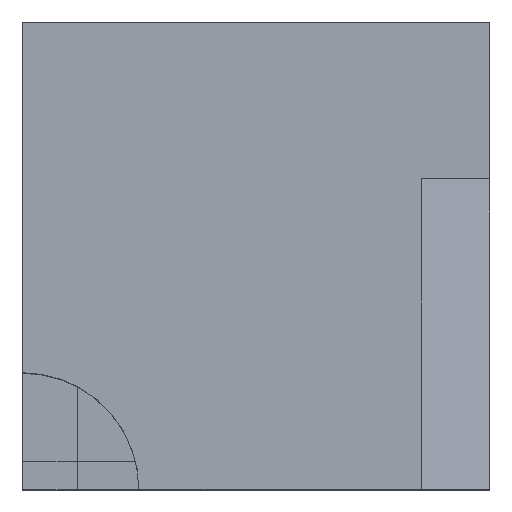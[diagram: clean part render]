
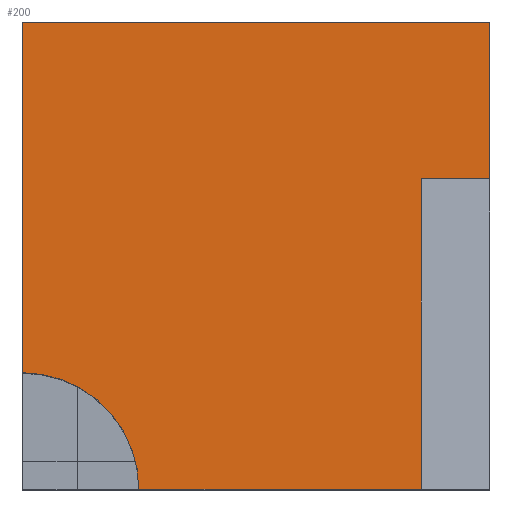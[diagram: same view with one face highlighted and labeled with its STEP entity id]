
A CAD part, top view. The second image highlights one B-rep face of the part: STEP entity #200.
In plain terms, the highlighted planar face has unit normal (0, 0, 1).
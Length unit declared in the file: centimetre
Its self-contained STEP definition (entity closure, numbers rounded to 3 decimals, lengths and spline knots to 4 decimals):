
#19 = VECTOR ( 'NONE', #840, 100. ) ;
#32 = DIRECTION ( 'NONE',  ( -1., 0., 0. ) ) ;
#58 = VECTOR ( 'NONE', #846, 100. ) ;
#97 = LINE ( 'NONE', #541, #509 ) ;
#101 = VERTEX_POINT ( 'NONE', #371 ) ;
#103 = LINE ( 'NONE', #108, #388 ) ;
#108 = CARTESIAN_POINT ( 'NONE',  ( 0., 1000., 1000. ) ) ;
#116 = ORIENTED_EDGE ( 'NONE', *, *, #284, .T. ) ;
#194 = DIRECTION ( 'NONE',  ( 1., 0., 0. ) ) ;
#200 = ADVANCED_FACE ( 'NONE', ( #385 ), #813, .T. ) ;
#207 = LINE ( 'NONE', #501, #19 ) ;
#210 = LINE ( 'NONE', #355, #759 ) ;
#213 = ORIENTED_EDGE ( 'NONE', *, *, #428, .T. ) ;
#240 = VERTEX_POINT ( 'NONE', #886 ) ;
#262 = LINE ( 'NONE', #833, #403 ) ;
#276 = EDGE_CURVE ( 'NONE', #850, #359, #97, .T. ) ;
#284 = EDGE_CURVE ( 'NONE', #359, #101, #103, .T. ) ;
#355 = CARTESIAN_POINT ( 'NONE',  ( 1000., 1000., 1000. ) ) ;
#359 = VERTEX_POINT ( 'NONE', #684 ) ;
#371 = CARTESIAN_POINT ( 'NONE',  ( 0., 249.2737, 1000. ) ) ;
#380 = EDGE_LOOP ( 'NONE', ( #648, #514, #869, #783, #116, #636, #213 ) ) ;
#385 = FACE_OUTER_BOUND ( 'NONE', #380, .T. ) ;
#388 = VECTOR ( 'NONE', #601, 100. ) ;
#403 = VECTOR ( 'NONE', #194, 100. ) ;
#428 = EDGE_CURVE ( 'NONE', #841, #577, #262, .T. ) ;
#448 = EDGE_CURVE ( 'NONE', #240, #850, #210, .T. ) ;
#458 = CARTESIAN_POINT ( 'NONE',  ( 0., 0., 1000. ) ) ;
#480 = AXIS2_PLACEMENT_3D ( 'NONE', #800, #737, #893 ) ;
#489 = EDGE_CURVE ( 'NONE', #603, #577, #637, .T. ) ;
#497 = AXIS2_PLACEMENT_3D ( 'NONE', #458, #532, #819 ) ;
#501 = CARTESIAN_POINT ( 'NONE',  ( 854.1298, 664.202, 1000. ) ) ;
#504 = DIRECTION ( 'NONE',  ( 0., 1., 0. ) ) ;
#509 = VECTOR ( 'NONE', #32, 100. ) ;
#514 = ORIENTED_EDGE ( 'NONE', *, *, #904, .F. ) ;
#519 = CARTESIAN_POINT ( 'NONE',  ( 854.1298, 664.202, 1000. ) ) ;
#528 = CIRCLE ( 'NONE', #480, 249.2737 ) ;
#532 = DIRECTION ( 'NONE',  ( 0., 0., 1. ) ) ;
#541 = CARTESIAN_POINT ( 'NONE',  ( 0., 1000., 1000. ) ) ;
#577 = VERTEX_POINT ( 'NONE', #585 ) ;
#585 = CARTESIAN_POINT ( 'NONE',  ( 854.1298, 0., 1000. ) ) ;
#601 = DIRECTION ( 'NONE',  ( 0., -1., 0. ) ) ;
#603 = VERTEX_POINT ( 'NONE', #519 ) ;
#636 = ORIENTED_EDGE ( 'NONE', *, *, #681, .F. ) ;
#637 = LINE ( 'NONE', #775, #58 ) ;
#648 = ORIENTED_EDGE ( 'NONE', *, *, #489, .F. ) ;
#681 = EDGE_CURVE ( 'NONE', #841, #101, #528, .T. ) ;
#684 = CARTESIAN_POINT ( 'NONE',  ( 0., 1000., 1000. ) ) ;
#737 = DIRECTION ( 'NONE',  ( 0., 0., 1. ) ) ;
#759 = VECTOR ( 'NONE', #504, 100. ) ;
#775 = CARTESIAN_POINT ( 'NONE',  ( 854.1298, 664.202, 1000. ) ) ;
#776 = CARTESIAN_POINT ( 'NONE',  ( 1000., 1000., 1000. ) ) ;
#783 = ORIENTED_EDGE ( 'NONE', *, *, #276, .T. ) ;
#800 = CARTESIAN_POINT ( 'NONE',  ( 0., 0., 1000. ) ) ;
#813 = PLANE ( 'NONE',  #497 ) ;
#819 = DIRECTION ( 'NONE',  ( 1., 0., 0. ) ) ;
#833 = CARTESIAN_POINT ( 'NONE',  ( 0., 0., 1000. ) ) ;
#840 = DIRECTION ( 'NONE',  ( -1., 0., 0. ) ) ;
#841 = VERTEX_POINT ( 'NONE', #919 ) ;
#846 = DIRECTION ( 'NONE',  ( 0., -1., 0. ) ) ;
#850 = VERTEX_POINT ( 'NONE', #776 ) ;
#869 = ORIENTED_EDGE ( 'NONE', *, *, #448, .T. ) ;
#886 = CARTESIAN_POINT ( 'NONE',  ( 1000., 664.202, 1000. ) ) ;
#893 = DIRECTION ( 'NONE',  ( 1., 0., 0. ) ) ;
#904 = EDGE_CURVE ( 'NONE', #240, #603, #207, .T. ) ;
#919 = CARTESIAN_POINT ( 'NONE',  ( 249.2737, 0., 1000. ) ) ;
